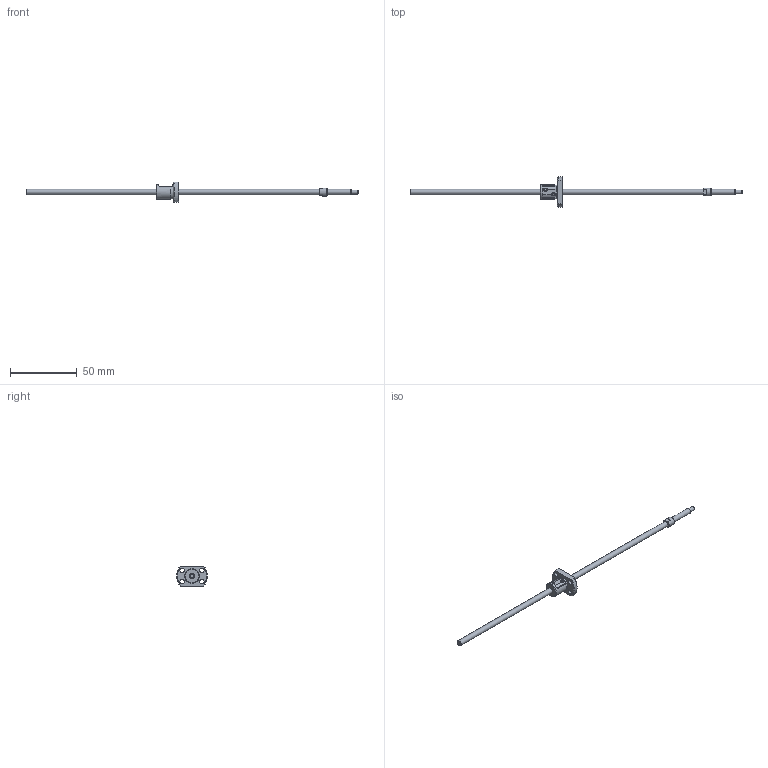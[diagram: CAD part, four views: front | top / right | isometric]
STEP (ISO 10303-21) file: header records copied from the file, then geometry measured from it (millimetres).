
FILE_DESCRIPTION(/* description */ ('STEP AP214'),/* implementation_level */ '2;1');
FILE_NAME(/* name */ 'SRT0401-216R249C7A0X(97.5Processing)',/* time_stamp */ '2026-08-04T17:47:52+02:00',/* author */ ('License CC BY-ND 4.0'),/* organization */ ('CADENAS'),/* preprocessor_version */ 'ST-DEVELOPER v20',/* originating_system */ 'PARTsolutions',/* authorisation */ ' ');
FILE_SCHEMA (('AUTOMOTIVE_DESIGN {1 0 10303 214 3 1 1}'));
Length unit declared in the file: millimetre
Products named in the file (3): SRT0401-216R249C7A0X(97.5Processing); SRT0401-216R275ACt7Processing2Shaft; SRT0401Nut
Assembly tree (2 placements, depth 2):
  SRT0401-216R249C7A0X(97.5Processing)
    SRT0401-216R275ACt7Processing2Shaft
    SRT0401Nut
Bounding box: 249 x 22.93 x 15 mm (x, y, z)
Volume: 5202.9 mm3; surface area: 4841.9 mm2
Topology: 2 solids, 2 shells, 61 faces, 155 edges, 102 vertices
Faces by surface type: plane 30, cylinder 17, cone 13, torus 1
Full cylindrical faces by diameter (mm): 1 x2, 3 x1, 3.4 x4, 4 x3, 6 x1, 10.5 x1, 11 x1
Entity records: 1743 total; most frequent: CARTESIAN_POINT 332, DIRECTION 288, ORIENTED_EDGE 238, AXIS2_PLACEMENT_3D 123, EDGE_CURVE 119, EDGE_LOOP 98, FACE_BOUND 98, VERTEX_POINT 89
